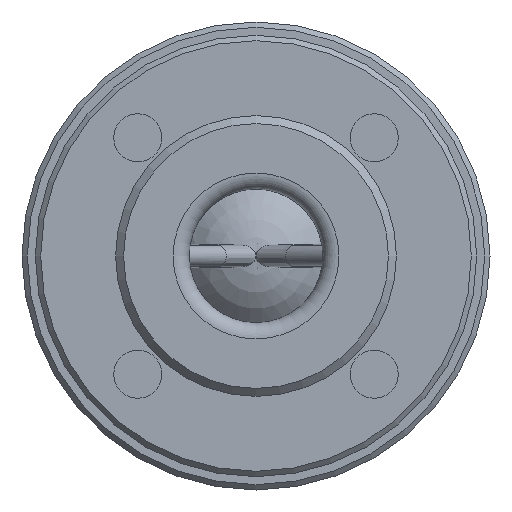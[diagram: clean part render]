
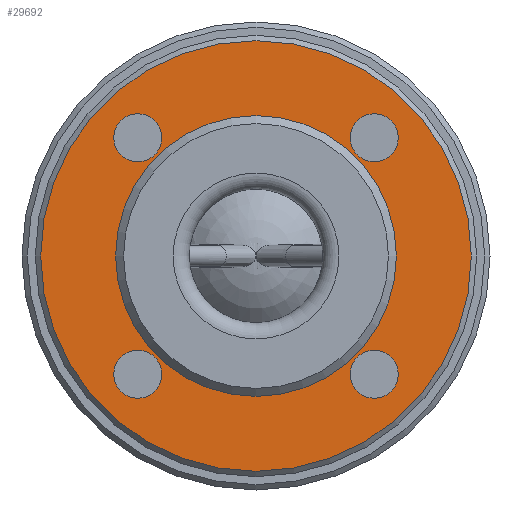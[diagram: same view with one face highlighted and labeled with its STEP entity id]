
A CAD part, front view. The second image highlights one B-rep face of the part: STEP entity #29692.
In plain terms, the highlighted planar face has unit normal (0, -1, 0).
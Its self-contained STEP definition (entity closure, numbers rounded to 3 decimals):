
#9447=ORIENTED_EDGE('',*,*,#12661,.F.);
#9448=ORIENTED_EDGE('',*,*,#12660,.F.);
#9449=ORIENTED_EDGE('',*,*,#12659,.F.);
#9450=ORIENTED_EDGE('',*,*,#12658,.F.);
#9451=ORIENTED_EDGE('',*,*,#12662,.T.);
#9452=ORIENTED_EDGE('',*,*,#12657,.F.);
#12657=EDGE_CURVE('',#14714,#14714,#15442,.T.);
#12658=EDGE_CURVE('',#14715,#14715,#15443,.T.);
#12659=EDGE_CURVE('',#14716,#14716,#15444,.T.);
#12660=EDGE_CURVE('',#14717,#14717,#15445,.T.);
#12661=EDGE_CURVE('',#14718,#14718,#15446,.T.);
#12662=EDGE_CURVE('',#14719,#14719,#15447,.T.);
#14714=VERTEX_POINT('',#57353);
#14715=VERTEX_POINT('',#57356);
#14716=VERTEX_POINT('',#57359);
#14717=VERTEX_POINT('',#57362);
#14718=VERTEX_POINT('',#57365);
#14719=VERTEX_POINT('',#57368);
#15442=CIRCLE('',#31339,80.5);
#15443=CIRCLE('',#31341,9.);
#15444=CIRCLE('',#31343,9.);
#15445=CIRCLE('',#31345,9.);
#15446=CIRCLE('',#31347,9.);
#15447=CIRCLE('',#31349,52.5);
#16921=EDGE_LOOP('',(#9447));
#16922=EDGE_LOOP('',(#9448));
#16923=EDGE_LOOP('',(#9449));
#16924=EDGE_LOOP('',(#9450));
#16925=EDGE_LOOP('',(#9451));
#16926=EDGE_LOOP('',(#9452));
#18617=FACE_BOUND('',#16921,.T.);
#18618=FACE_BOUND('',#16922,.T.);
#18619=FACE_BOUND('',#16923,.T.);
#18620=FACE_BOUND('',#16924,.T.);
#18621=FACE_BOUND('',#16925,.T.);
#18622=FACE_BOUND('',#16926,.T.);
#19512=PLANE('',#31348);
#29692=ADVANCED_FACE('',(#18617,#18618,#18619,#18620,#18621,#18622),#19512,
 .T.);
#31339=AXIS2_PLACEMENT_3D('',#57352,#35458,#35459);
#31341=AXIS2_PLACEMENT_3D('',#57355,#35462,#35463);
#31343=AXIS2_PLACEMENT_3D('',#57358,#35466,#35467);
#31345=AXIS2_PLACEMENT_3D('',#57361,#35470,#35471);
#31347=AXIS2_PLACEMENT_3D('',#57364,#35474,#35475);
#31348=AXIS2_PLACEMENT_3D('',#57366,#35476,#35477);
#31349=AXIS2_PLACEMENT_3D('',#57367,#35478,#35479);
#35458=DIRECTION('',(0.,1.,0.));
#35459=DIRECTION('',(0.,0.,1.));
#35462=DIRECTION('',(0.,-1.,0.));
#35463=DIRECTION('',(0.,0.,-1.));
#35466=DIRECTION('',(0.,-1.,0.));
#35467=DIRECTION('',(0.,0.,-1.));
#35470=DIRECTION('',(0.,-1.,0.));
#35471=DIRECTION('',(0.,0.,-1.));
#35474=DIRECTION('',(0.,-1.,0.));
#35475=DIRECTION('',(0.,0.,-1.));
#35476=DIRECTION('',(0.,-1.,0.));
#35477=DIRECTION('',(0.,0.,-1.));
#35478=DIRECTION('',(0.,1.,0.));
#35479=DIRECTION('',(0.,0.,1.));
#57352=CARTESIAN_POINT('',(0.,-48.,0.));
#57353=CARTESIAN_POINT('',(0.,-48.,80.5));
#57355=CARTESIAN_POINT('',(-44.194,-48.,44.194));
#57356=CARTESIAN_POINT('',(-44.194,-48.,35.194));
#57358=CARTESIAN_POINT('',(44.194,-48.,44.194));
#57359=CARTESIAN_POINT('',(44.194,-48.,35.194));
#57361=CARTESIAN_POINT('',(44.194,-48.,-44.194));
#57362=CARTESIAN_POINT('',(44.194,-48.,-53.194));
#57364=CARTESIAN_POINT('',(-44.194,-48.,-44.194));
#57365=CARTESIAN_POINT('',(-44.194,-48.,-53.194));
#57366=CARTESIAN_POINT('',(80.5,-48.,0.));
#57367=CARTESIAN_POINT('',(0.,-48.,0.));
#57368=CARTESIAN_POINT('',(0.,-48.,52.5));
